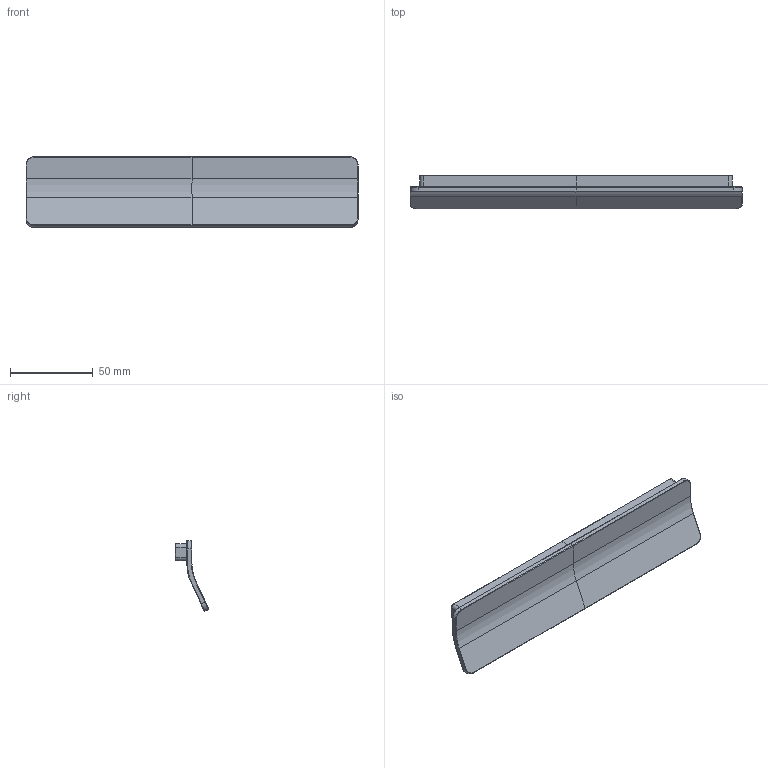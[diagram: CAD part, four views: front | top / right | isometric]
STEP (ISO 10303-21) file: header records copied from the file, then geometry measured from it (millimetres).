
FILE_DESCRIPTION (( 'STEP AP214' ), '1' );
FILE_NAME ('555420160 LEAF.STEP', '2022-11-21T08:46:27', ( '' ), ( '' ), 'SwSTEP 2.0', 'SolidWorks 2022', '' );
FILE_SCHEMA (( 'AUTOMOTIVE_DESIGN' ));
Length unit declared in the file: millimetre
Products named in the file (1): 555420160 LEAF
Bounding box: 200 x 20.19 x 42.56 mm (x, y, z)
Volume: 39328.9 mm3; surface area: 21767.3 mm2
Topology: 1 solids, 1 shells, 96 faces, 208 edges, 116 vertices
Faces by surface type: cylinder 44, plane 26, bspline 20, cone 6
Entity records: 2412 total; most frequent: CARTESIAN_POINT 873, ORIENTED_EDGE 416, EDGE_CURVE 208, DIRECTION 184, VERTEX_POINT 116, EDGE_LOOP 98, FACE_OUTER_BOUND 96, B_SPLINE_CURVE_WITH_KNOTS 96
